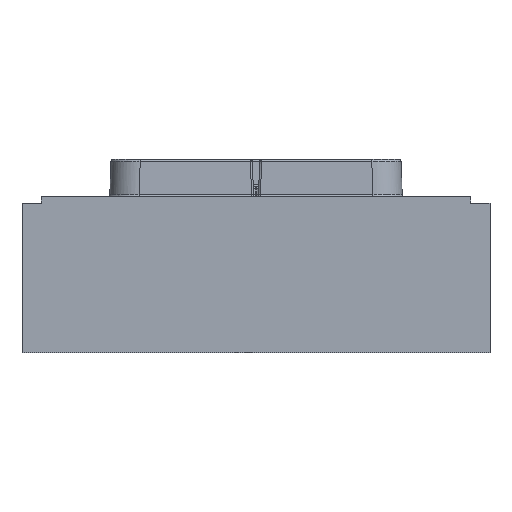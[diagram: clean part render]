
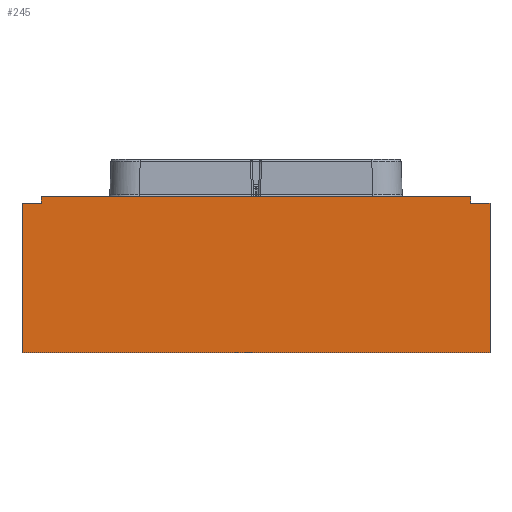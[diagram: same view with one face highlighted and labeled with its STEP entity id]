
A CAD part, front view. The second image highlights one B-rep face of the part: STEP entity #245.
In plain terms, the highlighted planar face has unit normal (0, -1, 0).
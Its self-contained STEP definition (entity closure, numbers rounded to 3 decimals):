
#108 = DIRECTION ( 'NONE',  ( 0., 0., -1. ) ) ;
#167 = EDGE_CURVE ( 'NONE', #20542, #15813, #13047, .T. ) ;
#179 = ORIENTED_EDGE ( 'NONE', *, *, #13446, .T. ) ;
#245 = ADVANCED_FACE ( 'NONE', ( #17344 ), #1808, .T. ) ;
#277 = VECTOR ( 'NONE', #8331, 1000. ) ;
#380 = CARTESIAN_POINT ( 'NONE',  ( -60., -60., -52. ) ) ;
#603 = VECTOR ( 'NONE', #1276, 1000. ) ;
#744 = DIRECTION ( 'NONE',  ( 1., 0., 0. ) ) ;
#936 = DIRECTION ( 'NONE',  ( -1., 0., 0. ) ) ;
#1276 = DIRECTION ( 'NONE',  ( 1., 0., 0. ) ) ;
#1439 = CARTESIAN_POINT ( 'NONE',  ( -55., -60., -13.75 ) ) ;
#1453 = CARTESIAN_POINT ( 'NONE',  ( 60., -60., -52. ) ) ;
#1715 = CARTESIAN_POINT ( 'NONE',  ( 55., -60., -12. ) ) ;
#1808 = PLANE ( 'NONE',  #22326 ) ;
#3264 = EDGE_CURVE ( 'NONE', #4239, #11939, #19404, .T. ) ;
#3313 = CARTESIAN_POINT ( 'NONE',  ( 60., -60., -13.75 ) ) ;
#3876 = CARTESIAN_POINT ( 'NONE',  ( 55., -60., -13.75 ) ) ;
#3959 = EDGE_CURVE ( 'NONE', #4239, #21421, #4662, .T. ) ;
#4239 = VERTEX_POINT ( 'NONE', #7918 ) ;
#4418 = DIRECTION ( 'NONE',  ( 0., 0., -1. ) ) ;
#4446 = ORIENTED_EDGE ( 'NONE', *, *, #17563, .F. ) ;
#4662 = LINE ( 'NONE', #16814, #603 ) ;
#4954 = VECTOR ( 'NONE', #744, 1000. ) ;
#5170 = LINE ( 'NONE', #12100, #17105 ) ;
#5904 = ORIENTED_EDGE ( 'NONE', *, *, #8960, .F. ) ;
#6137 = ORIENTED_EDGE ( 'NONE', *, *, #3959, .F. ) ;
#6849 = VECTOR ( 'NONE', #936, 1000. ) ;
#7097 = VECTOR ( 'NONE', #10804, 1000. ) ;
#7233 = LINE ( 'NONE', #14187, #14520 ) ;
#7918 = CARTESIAN_POINT ( 'NONE',  ( 55., -60., -13.75 ) ) ;
#8097 = CARTESIAN_POINT ( 'NONE',  ( -55., -60., -12. ) ) ;
#8331 = DIRECTION ( 'NONE',  ( 0., 0., 1. ) ) ;
#8702 = CARTESIAN_POINT ( 'NONE',  ( 60., -60., 5. ) ) ;
#8871 = VERTEX_POINT ( 'NONE', #8097 ) ;
#8960 = EDGE_CURVE ( 'NONE', #20542, #13050, #9335, .T. ) ;
#9335 = LINE ( 'NONE', #16281, #4954 ) ;
#9545 = LINE ( 'NONE', #16480, #6849 ) ;
#9659 = EDGE_CURVE ( 'NONE', #13050, #8871, #16976, .T. ) ;
#10249 = VECTOR ( 'NONE', #4418, 1000. ) ;
#10626 = ORIENTED_EDGE ( 'NONE', *, *, #167, .T. ) ;
#10804 = DIRECTION ( 'NONE',  ( 0., 0., 1. ) ) ;
#11711 = EDGE_LOOP ( 'NONE', ( #12249, #5904, #10626, #4446, #16075, #6137, #18805, #179 ) ) ;
#11939 = VERTEX_POINT ( 'NONE', #1715 ) ;
#12100 = CARTESIAN_POINT ( 'NONE',  ( 60., -60., -52. ) ) ;
#12249 = ORIENTED_EDGE ( 'NONE', *, *, #9659, .F. ) ;
#13047 = LINE ( 'NONE', #19949, #10249 ) ;
#13050 = VERTEX_POINT ( 'NONE', #20623 ) ;
#13446 = EDGE_CURVE ( 'NONE', #11939, #8871, #9545, .T. ) ;
#14187 = CARTESIAN_POINT ( 'NONE',  ( 60., -60., 5. ) ) ;
#14465 = CARTESIAN_POINT ( 'NONE',  ( -60., -60., -13.75 ) ) ;
#14520 = VECTOR ( 'NONE', #21087, 1000. ) ;
#15665 = DIRECTION ( 'NONE',  ( 0., -1., 0. ) ) ;
#15813 = VERTEX_POINT ( 'NONE', #380 ) ;
#16075 = ORIENTED_EDGE ( 'NONE', *, *, #21737, .F. ) ;
#16281 = CARTESIAN_POINT ( 'NONE',  ( -60., -60., -13.75 ) ) ;
#16480 = CARTESIAN_POINT ( 'NONE',  ( 60., -60., -12. ) ) ;
#16814 = CARTESIAN_POINT ( 'NONE',  ( 55., -60., -13.75 ) ) ;
#16976 = LINE ( 'NONE', #1439, #277 ) ;
#17105 = VECTOR ( 'NONE', #19002, 1000. ) ;
#17344 = FACE_OUTER_BOUND ( 'NONE', #11711, .T. ) ;
#17563 = EDGE_CURVE ( 'NONE', #21991, #15813, #5170, .T. ) ;
#18805 = ORIENTED_EDGE ( 'NONE', *, *, #3264, .T. ) ;
#19002 = DIRECTION ( 'NONE',  ( -1., 0., 0. ) ) ;
#19404 = LINE ( 'NONE', #3876, #7097 ) ;
#19949 = CARTESIAN_POINT ( 'NONE',  ( -60., -60., 5. ) ) ;
#20542 = VERTEX_POINT ( 'NONE', #14465 ) ;
#20623 = CARTESIAN_POINT ( 'NONE',  ( -55., -60., -13.75 ) ) ;
#21087 = DIRECTION ( 'NONE',  ( 0., 0., -1. ) ) ;
#21421 = VERTEX_POINT ( 'NONE', #3313 ) ;
#21737 = EDGE_CURVE ( 'NONE', #21421, #21991, #7233, .T. ) ;
#21991 = VERTEX_POINT ( 'NONE', #1453 ) ;
#22326 = AXIS2_PLACEMENT_3D ( 'NONE', #8702, #15665, #108 ) ;
